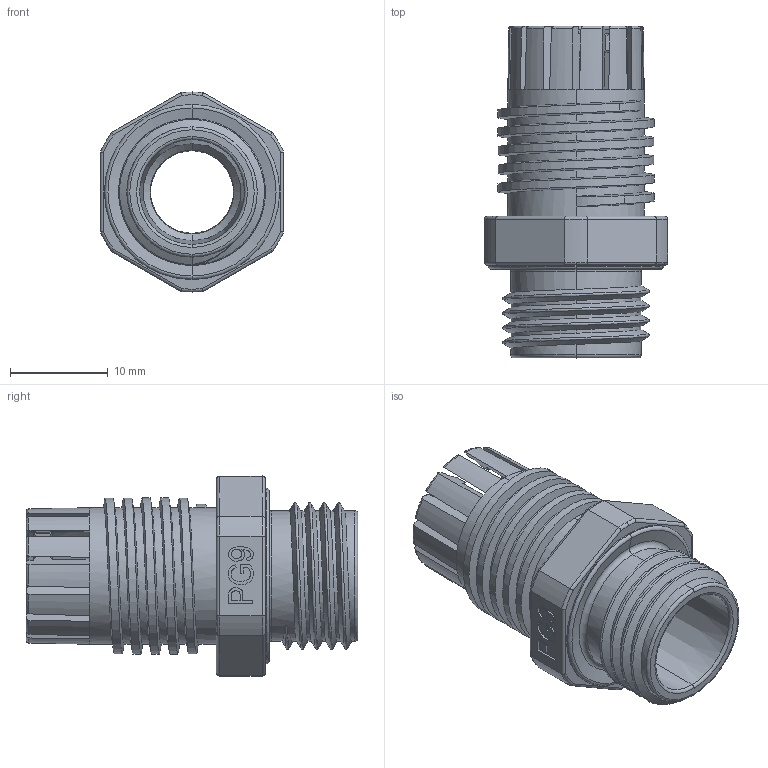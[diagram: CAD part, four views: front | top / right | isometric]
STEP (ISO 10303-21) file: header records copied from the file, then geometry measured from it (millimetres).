
FILE_DESCRIPTION (( 'STEP AP214' ), '1' );
FILE_NAME ('plc-pg-9-00.00.001 昢膼瘔 (PG9) #base (PG9)#.STEP', '2024-04-24T07:43:28', ( '' ), ( '' ), 'SwSTEP 2.0', 'SolidWorks 2021', '' );
FILE_SCHEMA (( 'AUTOMOTIVE_DESIGN' ));
Length unit declared in the file: millimetre
Products named in the file (1): plc-pg-9-00.00.001 昢膼瘔 (PG9) #base (PG9)#
Bounding box: 18.8 x 34 x 20.5 mm (x, y, z)
Volume: 3064.6 mm3; surface area: 3967.2 mm2
Topology: 1 solids, 1 shells, 360 faces, 959 edges, 612 vertices
Faces by surface type: plane 138, cone 71, cylinder 60, torus 51, bspline 40
Entity records: 15741 total; most frequent: CARTESIAN_POINT 6882, ORIENTED_EDGE 1918, DIRECTION 1448, EDGE_CURVE 959, VERTEX_POINT 612, AXIS2_PLACEMENT_3D 559, EDGE_LOOP 373, ADVANCED_FACE 360
